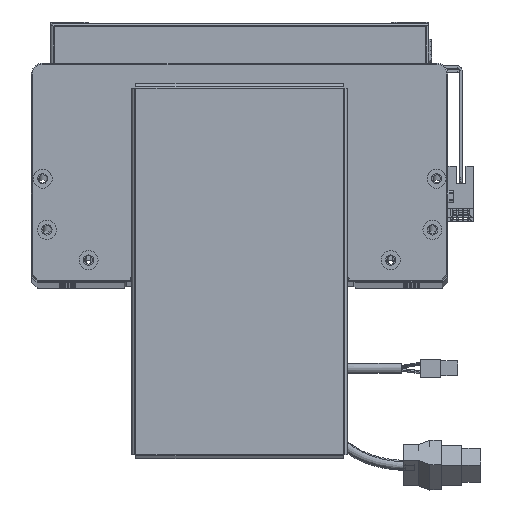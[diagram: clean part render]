
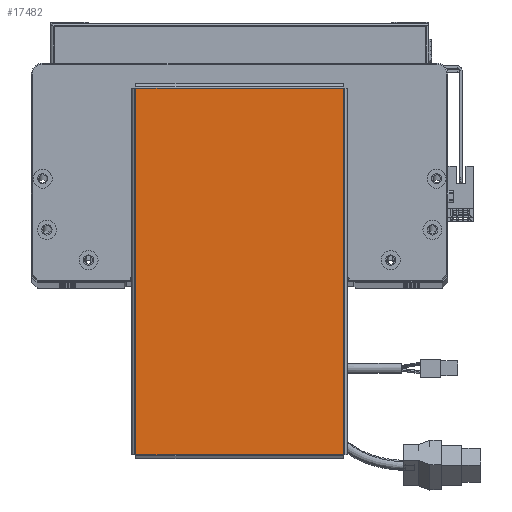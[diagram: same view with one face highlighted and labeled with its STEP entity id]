
A CAD part, top view. The second image highlights one B-rep face of the part: STEP entity #17482.
In plain terms, the highlighted planar face has unit normal (0, 0, 1).
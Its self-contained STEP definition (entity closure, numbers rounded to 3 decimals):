
#332 = ORIENTED_EDGE ( 'NONE', *, *, #56930, .T. ) ;
#622 = CARTESIAN_POINT ( 'NONE',  ( -96.763, -54.763, 0. ) ) ;
#2256 = LINE ( 'NONE', #32958, #51316 ) ;
#6124 = FACE_OUTER_BOUND ( 'NONE', #67569, .T. ) ;
#10518 = AXIS2_PLACEMENT_3D ( 'NONE', #62871, #31083, #36420 ) ;
#13594 = ORIENTED_EDGE ( 'NONE', *, *, #31010, .T. ) ;
#17153 = EDGE_CURVE ( 'NONE', #32033, #64854, #25328, .T. ) ;
#17482 = ADVANCED_FACE ( 'NONE', ( #6124 ), #20400, .T. ) ;
#20400 = PLANE ( 'NONE',  #10518 ) ;
#23371 = DIRECTION ( 'NONE',  ( -1., 0., 0. ) ) ;
#25328 = LINE ( 'NONE', #48483, #54387 ) ;
#30473 = LINE ( 'NONE', #53970, #57057 ) ;
#31010 = EDGE_CURVE ( 'NONE', #50199, #48257, #2256, .T. ) ;
#31083 = DIRECTION ( 'NONE',  ( 0., 0., 1. ) ) ;
#31840 = DIRECTION ( 'NONE',  ( 0., 1., 0. ) ) ;
#32033 = VERTEX_POINT ( 'NONE', #67257 ) ;
#32958 = CARTESIAN_POINT ( 'NONE',  ( -96.763, 54.793, 0. ) ) ;
#36420 = DIRECTION ( 'NONE',  ( 1., 0., 0. ) ) ;
#38048 = DIRECTION ( 'NONE',  ( 0., -1., 0. ) ) ;
#47744 = VECTOR ( 'NONE', #23371, 1000. ) ;
#48257 = VERTEX_POINT ( 'NONE', #622 ) ;
#48483 = CARTESIAN_POINT ( 'NONE',  ( 96.763, -54.793, 0. ) ) ;
#48874 = CARTESIAN_POINT ( 'NONE',  ( 96.793, 54.763, 0. ) ) ;
#50070 = EDGE_CURVE ( 'NONE', #64854, #50199, #51086, .T. ) ;
#50199 = VERTEX_POINT ( 'NONE', #67414 ) ;
#51086 = LINE ( 'NONE', #48874, #47744 ) ;
#51316 = VECTOR ( 'NONE', #38048, 1000. ) ;
#53170 = ORIENTED_EDGE ( 'NONE', *, *, #50070, .T. ) ;
#53729 = DIRECTION ( 'NONE',  ( 1., 0., 0. ) ) ;
#53970 = CARTESIAN_POINT ( 'NONE',  ( -96.793, -54.763, 0. ) ) ;
#54387 = VECTOR ( 'NONE', #31840, 1000. ) ;
#56098 = ORIENTED_EDGE ( 'NONE', *, *, #17153, .T. ) ;
#56930 = EDGE_CURVE ( 'NONE', #48257, #32033, #30473, .T. ) ;
#57057 = VECTOR ( 'NONE', #53729, 1000. ) ;
#62871 = CARTESIAN_POINT ( 'NONE',  ( 0., 0., 0. ) ) ;
#64854 = VERTEX_POINT ( 'NONE', #67359 ) ;
#67257 = CARTESIAN_POINT ( 'NONE',  ( 96.763, -54.763, 0. ) ) ;
#67359 = CARTESIAN_POINT ( 'NONE',  ( 96.763, 54.763, 0. ) ) ;
#67414 = CARTESIAN_POINT ( 'NONE',  ( -96.763, 54.763, 0. ) ) ;
#67569 = EDGE_LOOP ( 'NONE', ( #332, #56098, #53170, #13594 ) ) ;
